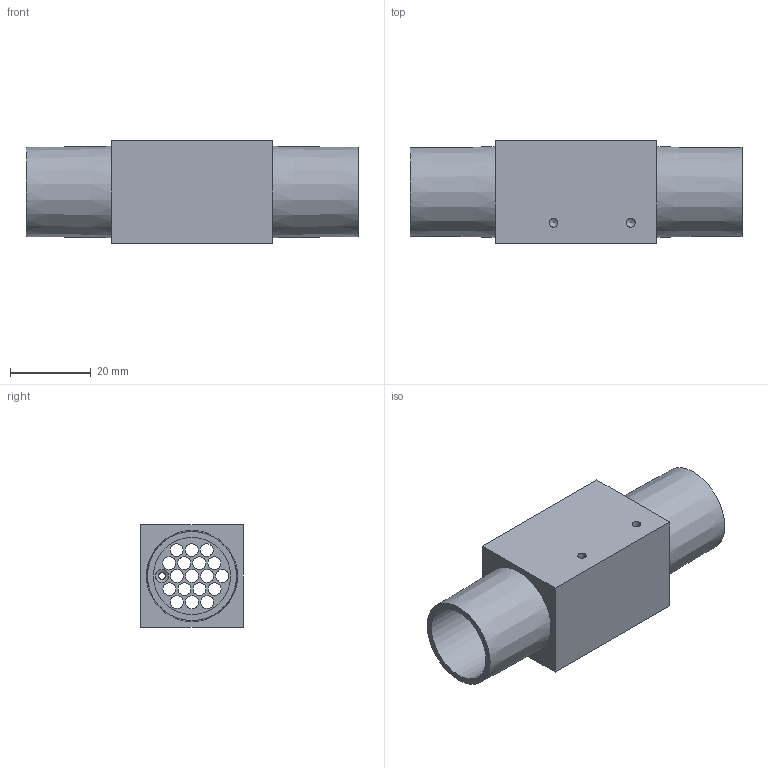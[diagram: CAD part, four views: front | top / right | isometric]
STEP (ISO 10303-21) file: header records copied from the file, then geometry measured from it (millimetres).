
FILE_DESCRIPTION(/* description */ (''),/* implementation_level */ '2;1');
FILE_NAME(/* name */ 'Y:\Microscopes_Design_and_SetUp\MechanicalDesign\Ventilator\IceHoney500_v2.stp',/* time_stamp */ '2020-04-22T18:27:34-04:00',/* author */ ('Princeton Open Vent Monitor'),/* organization */ ('Princeton University'),/* preprocessor_version */ 'ST-DEVELOPER v18',/* originating_system */ 'Autodesk Inventor 2020',/* authorisation */ '');
FILE_SCHEMA (('AUTOMOTIVE_DESIGN { 1 0 10303 214 3 1 1 }'));
Length unit declared in the file: inch
Products named in the file (1): IceHoney500_v2
Bounding box: 82.01 x 25.4 x 25.4 mm (x, y, z)
Volume: 19957.2 mm3; surface area: 14454.8 mm2
Topology: 1 solids, 1 shells, 56 faces, 172 edges, 120 vertices
Faces by surface type: cylinder 34, cone 12, plane 10
Full cylindrical faces by diameter (mm): 1.587 x1, 1.994 x2, 2.156 x8, 3.175 x20, 3.264 x1, 19.05 x2
Entity records: 2199 total; most frequent: CARTESIAN_POINT 463, DIRECTION 368, ORIENTED_EDGE 328, EDGE_CURVE 164, AXIS2_PLACEMENT_3D 155, VERTEX_POINT 120, EDGE_LOOP 110, CIRCLE 98
